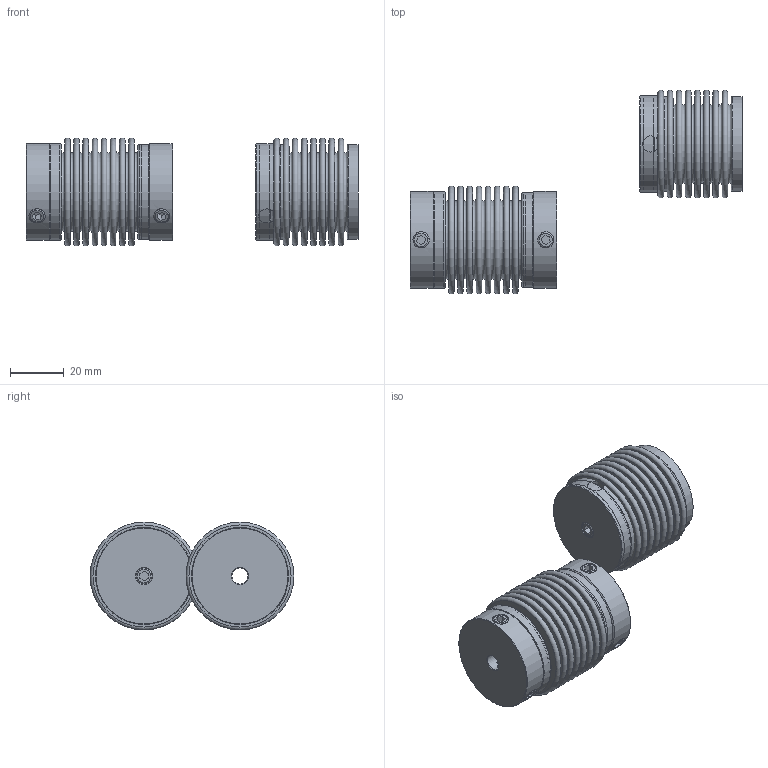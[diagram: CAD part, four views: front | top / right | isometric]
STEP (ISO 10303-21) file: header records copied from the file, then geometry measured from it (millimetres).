
FILE_DESCRIPTION( ( 'Unknown' ), '1' );
FILE_NAME( 'C:/Dokumente und Einstellungen/Sven/Desktop/cad - homepage/KB1/KB1-100-55.stp', 'Unknown', ( 'Unknown' ), ( 'Unknown' ), 'XStep 1.0', 'Unknown', ' ' );
FILE_SCHEMA( ( 'automotive_design' ) );
Length unit declared in the file: millimetre
Products named in the file (4): Assem1; MN100_Standard_0; Socket Set Screw Cup Point_DIN_DIN 916 - M6 x 10-N_0; BL100_Standard
Bounding box: 123.23 x 75.61 x 40 mm (x, y, z)
Volume: 45341.7 mm3; surface area: 64610.9 mm2
Topology: 10 solids, 10 shells, 259 faces, 496 edges, 320 vertices
Faces by surface type: plane 125, torus 76, cylinder 31, cone 27
Full cylindrical faces by diameter (mm): 6 x14, 34.343 x2, 35.143 x2, 35.2 x5, 36 x5
Entity records: 3096 total; most frequent: CARTESIAN_POINT 479, DIRECTION 447, ORIENTED_EDGE 244, AXIS2_PLACEMENT_3D 214, EDGE_LOOP 203, FACE_OUTER_BOUND 153, EDGE_CURVE 122, VERTEX_POINT 114
